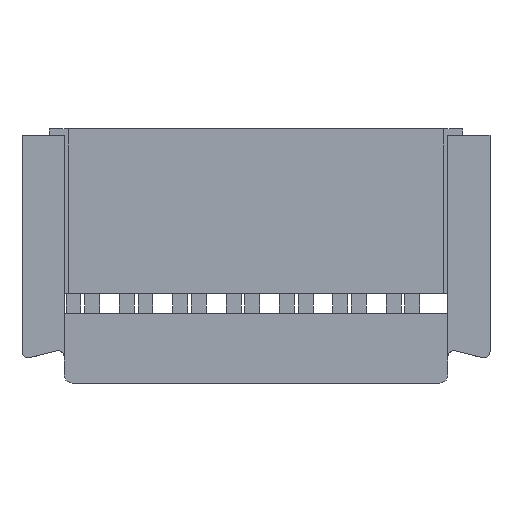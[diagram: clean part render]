
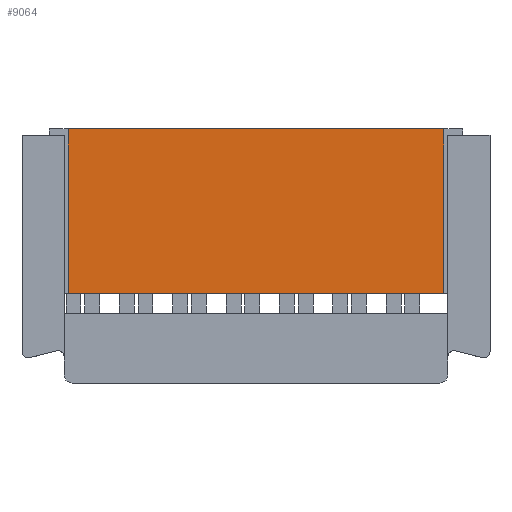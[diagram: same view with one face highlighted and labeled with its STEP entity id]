
A CAD part, front view. The second image highlights one B-rep face of the part: STEP entity #9064.
In plain terms, the highlighted planar face has unit normal (0, -1, 0).
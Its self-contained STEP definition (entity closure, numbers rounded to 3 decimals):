
#324=DIRECTION('',(1.,0.,0.));
#325=VECTOR('',#324,17.88);
#326=CARTESIAN_POINT('',(-8.94,-3.05,0.));
#327=LINE('',#326,#325);
#1356=DIRECTION('',(1.,0.,0.));
#1357=VECTOR('',#1356,17.88);
#1358=CARTESIAN_POINT('',(-8.94,-3.05,-7.85));
#1359=LINE('',#1358,#1357);
#3268=DIRECTION('',(0.,0.,1.));
#3269=VECTOR('',#3268,7.85);
#3270=CARTESIAN_POINT('',(-8.94,-3.05,-7.85));
#3271=LINE('',#3270,#3269);
#3272=DIRECTION('',(0.,0.,1.));
#3273=VECTOR('',#3272,7.85);
#3274=CARTESIAN_POINT('',(8.94,-3.05,-7.85));
#3275=LINE('',#3274,#3273);
#3354=CARTESIAN_POINT('',(-8.94,-3.05,0.));
#3356=VERTEX_POINT('',#3354);
#3370=CARTESIAN_POINT('',(8.94,-3.05,0.));
#3371=VERTEX_POINT('',#3370);
#3376=CARTESIAN_POINT('',(-8.94,-3.05,-7.85));
#3378=VERTEX_POINT('',#3376);
#3384=CARTESIAN_POINT('',(8.94,-3.05,-7.85));
#3386=VERTEX_POINT('',#3384);
#9052=CARTESIAN_POINT('',(-9.84,-3.05,0.));
#9053=DIRECTION('',(0.,-1.,0.));
#9054=DIRECTION('',(1.,0.,0.));
#9055=AXIS2_PLACEMENT_3D('',#9052,#9053,#9054);
#9056=PLANE('',#9055);
#9058=ORIENTED_EDGE('',*,*,#9057,.T.);
#9059=ORIENTED_EDGE('',*,*,#4443,.T.);
#9060=ORIENTED_EDGE('',*,*,#9047,.F.);
#9061=ORIENTED_EDGE('',*,*,#5672,.F.);
#9062=EDGE_LOOP('',(#9058,#9059,#9060,#9061));
#9063=FACE_OUTER_BOUND('',#9062,.F.);
#9064=ADVANCED_FACE('',(#9063),#9056,.T.);
#4443=EDGE_CURVE('',#3356,#3371,#327,.T.);
#5672=EDGE_CURVE('',#3378,#3386,#1359,.T.);
#9047=EDGE_CURVE('',#3386,#3371,#3275,.T.);
#9057=EDGE_CURVE('',#3378,#3356,#3271,.T.);
